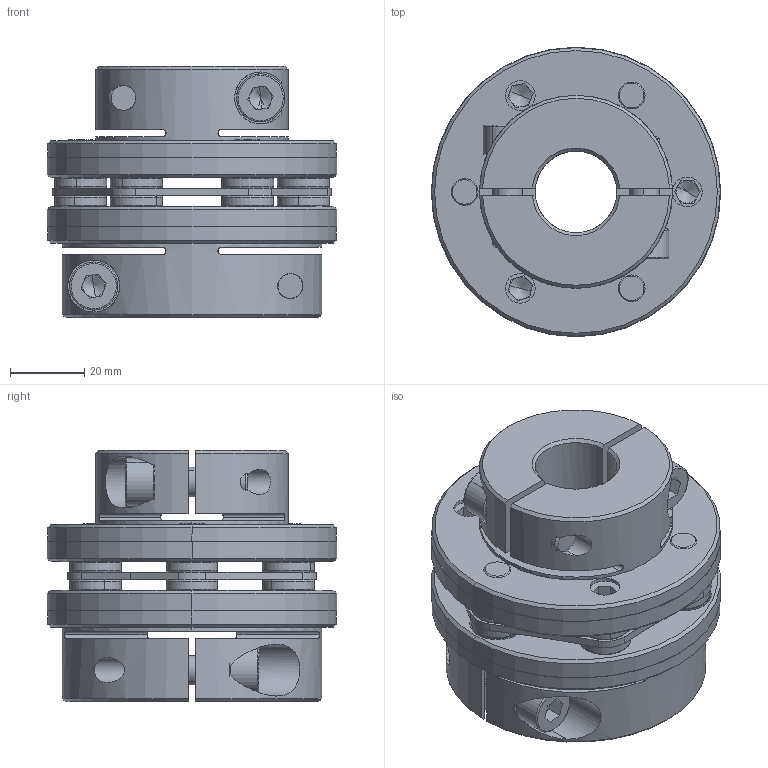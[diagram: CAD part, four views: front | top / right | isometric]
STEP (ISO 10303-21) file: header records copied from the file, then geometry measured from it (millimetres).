
FILE_DESCRIPTION (( 'STEP AP203' ), '1' );
FILE_NAME ('SCDS-78C-TYPE2(22X28).STEP', '2021-12-27T01:31:45', ( '' ), ( '' ), 'SwSTEP 2.0', 'SolidWorks 2021', '' );
FILE_SCHEMA (( 'CONFIG_CONTROL_DESIGN' ));
Length unit declared in the file: millimetre
Products named in the file (1): SCDS-78C-TYPE2(22X28)
Bounding box: 78 x 78 x 67.7 mm (x, y, z)
Volume: 172743.3 mm3; surface area: 60639.3 mm2
Topology: 1 solids, 13 shells, 663 faces, 1593 edges, 973 vertices
Faces by surface type: cylinder 237, plane 212, cone 118, torus 96
Entity records: 20344 total; most frequent: CARTESIAN_POINT 4320, DIRECTION 3651, ORIENTED_EDGE 3146, EDGE_CURVE 1573, AXIS2_PLACEMENT_3D 1506, VERTEX_POINT 973, CIRCLE 842, EDGE_LOOP 766
